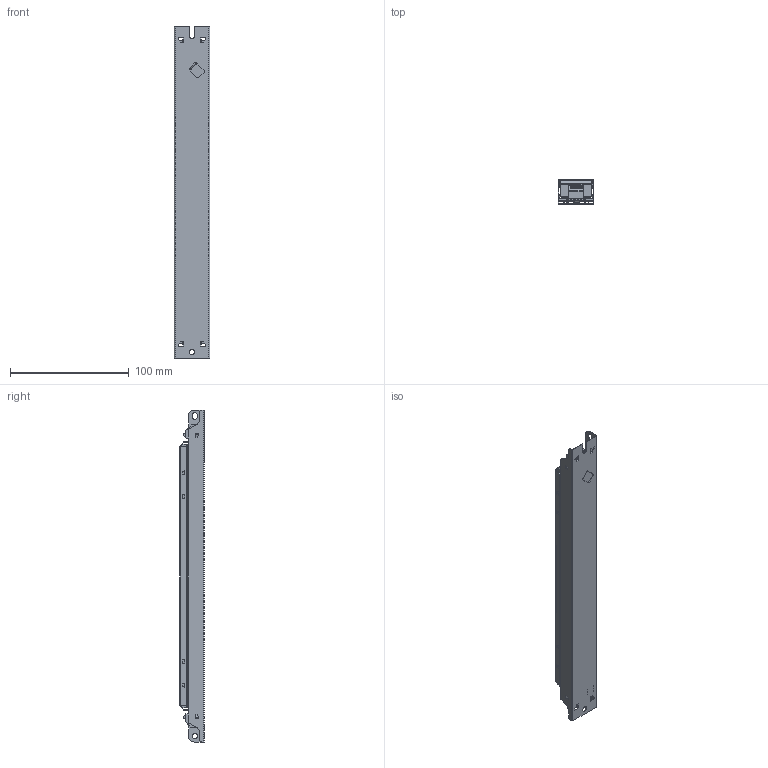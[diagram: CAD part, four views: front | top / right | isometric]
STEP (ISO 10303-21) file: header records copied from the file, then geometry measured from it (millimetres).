
FILE_DESCRIPTION((''),'2;1');
FILE_NAME('280MM_MECHANICS_3D_ASM_ASM','2024-01-05T',('Arbiter.he'),(''),'CREO PARAMETRIC BY PTC INC, 2018220','CREO PARAMETRIC BY PTC INC, 2018220','');
FILE_SCHEMA(('CONFIG_CONTROL_DESIGN'));
Length unit declared in the file: millimetre
Products named in the file (14): LL35HE-1-SOLID6; LL35HE-1-SOLID5; LL35HE-1-SOLID3; LL35HE-1-SOLID1; LL35HE-1-SOLID2; LL35HE-1-SOLID4; LL35HE-1-SOLID7; LL35HE__ANY_ASM_ASM_ASM; 3N-DUANZITAI_1; 2N-DUANZITAI_1; ASM0006_ASM_ASM; 280MM_MECHANICS_3D_ASM_ASM_ASM; BOMA-4; 280MM_MECHANICS_3D_ASM_ASM
Assembly tree (13 placements, depth 5):
  280MM_MECHANICS_3D_ASM_ASM
    280MM_MECHANICS_3D_ASM_ASM_ASM
      ASM0006_ASM_ASM
        LL35HE__ANY_ASM_ASM_ASM
          LL35HE-1-SOLID6
          LL35HE-1-SOLID5
          LL35HE-1-SOLID3
          LL35HE-1-SOLID1
          LL35HE-1-SOLID2
          LL35HE-1-SOLID4
          LL35HE-1-SOLID7
        3N-DUANZITAI_1
        2N-DUANZITAI_1
    BOMA-4
Bounding box: 30.08 x 20.8 x 280 mm (x, y, z)
Volume: 28445.3 mm3; surface area: 73934.5 mm2
Topology: 10 solids, 10 shells, 899 faces, 2442 edges, 1589 vertices
Faces by surface type: plane 600, cylinder 210, extrusion 54, bspline 24, cone 11
Entity records: 31082 total; most frequent: CARTESIAN_POINT 8049, ORIENTED_EDGE 4884, DIRECTION 4412, EDGE_CURVE 2442, VECTOR 1900, LINE 1846, VERTEX_POINT 1589, AXIS2_PLACEMENT_3D 1256
